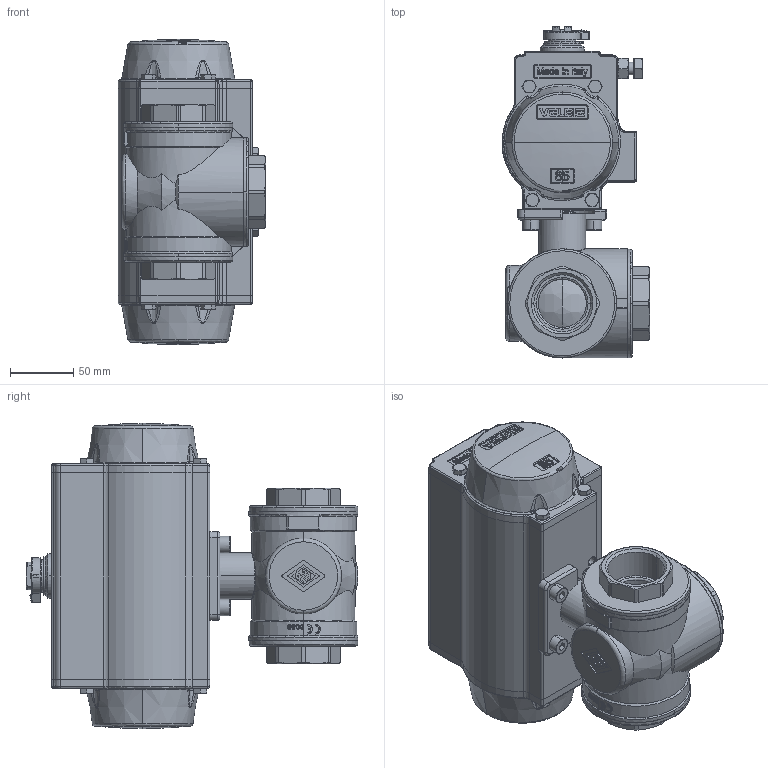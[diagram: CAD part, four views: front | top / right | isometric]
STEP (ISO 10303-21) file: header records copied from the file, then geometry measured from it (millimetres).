
FILE_DESCRIPTION (( 'STEP AP214' ), '1' );
FILE_NAME ('8P00860008.STEP', '2017-12-05T13:06:06', ( 'Bernardelli' ), ( 'Hewlett-Packard Company' ), 'SwSTEP 2.0', 'SolidWorks 2015', '' );
FILE_SCHEMA (( 'AUTOMOTIVE_DESIGN' ));
Length unit declared in the file: millimetre
Products named in the file (1): 8P00860008
Bounding box: 116.74 x 261.85 x 240.69 mm (x, y, z)
Volume: 2909449 mm3; surface area: 207537.7 mm2
Topology: 1 solids, 1 shells, 2240 faces, 5994 edges, 3798 vertices
Faces by surface type: plane 1009, bspline 561, cylinder 390, cone 253, torus 21, sphere 6
Entity records: 129175 total; most frequent: CARTESIAN_POINT 67199, ORIENTED_EDGE 11848, DIRECTION 6786, EDGE_CURVE 5924, VERTEX_POINT 3798, B_SPLINE_CURVE_WITH_KNOTS 2898, EDGE_LOOP 2370, AXIS2_PLACEMENT_3D 2277
